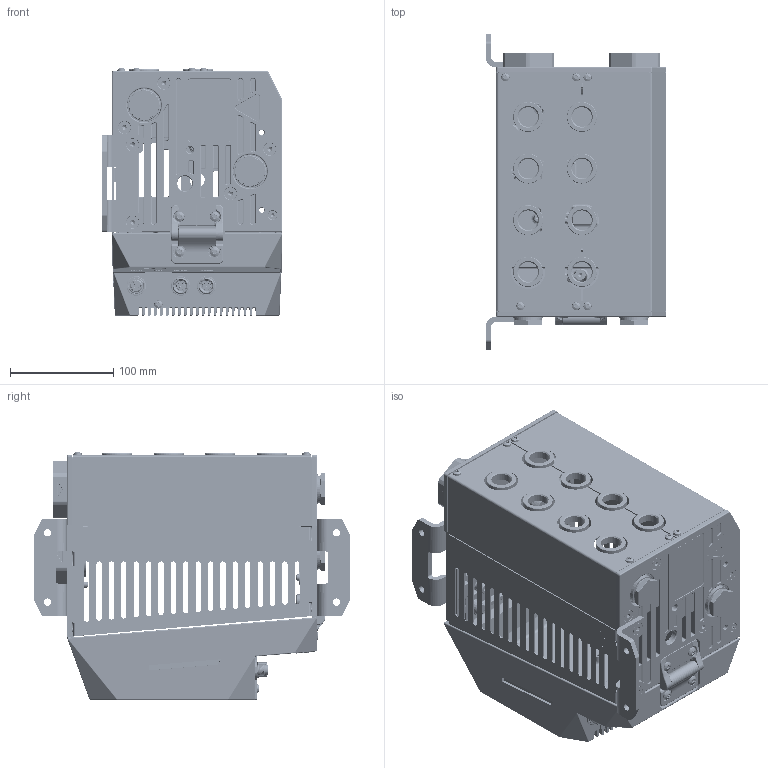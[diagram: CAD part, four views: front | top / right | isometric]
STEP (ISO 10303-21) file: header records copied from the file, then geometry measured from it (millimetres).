
FILE_DESCRIPTION (( 'STEP AP214' ), '1' );
FILE_NAME ('HB-FX1XXR61-4.STEP', '2026-03-02T08:56:28', ( '' ), ( '' ), 'SwSTEP 2.0', 'SolidWorks 2023', '' );
FILE_SCHEMA (( 'AUTOMOTIVE_DESIGN' ));
Length unit declared in the file: millimetre
Products named in the file (22): Kopie von K8534-Hülle Teil2^K8534-Hülle kompl_4-Fach HB-Therm; Kopie von 29824-X^Kopie von K8534-Hülle Teil3_K8534-Hülle kompl_00; Kopie von 28706^Kopie von K8534-Hülle Teil2_K8534-Hülle kompl_180°; HB-FX1XXR61-4; Kopie von 29827^Kopie von K8534-Hülle Teil2_K8534-Hülle kompl; Kopie von 29734-X^Kopie von K8534-Hülle Teil3_K8534-Hülle kompl_00; KX508-2_3^Kopie von 28706_Kopie von K8534-Hülle Teil2_K8534-Hülle kompl; Kopie von Kopie von 29730^Kopie von K8534-Hülle Teil2_K8534-Hülle kompl_00; Kopie von 29733-X^Kopie von K8534-Hülle Teil2_K8534-Hülle kompl; Kopie von 28862^Kopie von K8534-Hülle Teil2_K8534-Hülle kompl_M5x12; Kopie von 29796-X^Kopie von K8534-Hülle Teil2_K8534-Hülle kompl_29796-1; Kopie von 29730^Kopie von K8534-Hülle Teil3_K8534-Hülle kompl_00; Kopie von K8534-Hülle Teil3^K8534-Hülle kompl_4-FACH-RECHTS HB-Therm; Kopie von 29819-X^Kopie von K8534-Hülle Teil3_K8534-Hülle kompl_01-mit Beschriftung; KX508-2_1^Kopie von 28706_Kopie von K8534-Hülle Teil2_K8534-Hülle kompl; Kopie von 29813-X^Kopie von K8534-Hülle Teil3_K8534-Hülle kompl_01-mit Beschriftung; KX508-2_2^Kopie von 28706_Kopie von K8534-Hülle Teil2_K8534-Hülle kompl; Kopie von Kopie von 24568^Kopie von K8534-Hülle Teil3_K8534-Hülle kompl_00; Kopie von K8534-Hülle RECHTS^Kopie von K8534-Hülle Teil3_K8534-Hülle kompl_4-FACH RECHTS; Kopie von B3061620^Kopie von K8534-Hülle Teil2_K8534-Hülle kompl_M4x12; Kopie (2) von B3061620^Kopie von K8534-Hülle Teil2_K8534-Hülle kompl_M4x12; Kopie von 29714^Kopie von K8534-Hülle Teil2_K8534-Hülle kompl
Assembly tree (32 placements, depth 4):
  HB-FX1XXR61-4
    Kopie von K8534-Hülle Teil3^K8534-Hülle kompl_4-FACH-RECHTS HB-Therm
      Kopie von 29734-X^Kopie von K8534-Hülle Teil3_K8534-Hülle kompl_00  x2
      Kopie von 29730^Kopie von K8534-Hülle Teil3_K8534-Hülle kompl_00  x4
      Kopie von K8534-Hülle RECHTS^Kopie von K8534-Hülle Teil3_K8534-Hülle kompl_4-FACH RECHTS
      Kopie von 29819-X^Kopie von K8534-Hülle Teil3_K8534-Hülle kompl_01-mit Beschriftung
      Kopie von 29813-X^Kopie von K8534-Hülle Teil3_K8534-Hülle kompl_01-mit Beschriftung
      Kopie von 29824-X^Kopie von K8534-Hülle Teil3_K8534-Hülle kompl_00
      Kopie von Kopie von 24568^Kopie von K8534-Hülle Teil3_K8534-Hülle kompl_00  x2
    Kopie von K8534-Hülle Teil2^K8534-Hülle kompl_4-Fach HB-Therm
      Kopie von 29827^Kopie von K8534-Hülle Teil2_K8534-Hülle kompl  x2
      Kopie von 29714^Kopie von K8534-Hülle Teil2_K8534-Hülle kompl
      Kopie von 28862^Kopie von K8534-Hülle Teil2_K8534-Hülle kompl_M5x12  x4
      Kopie von 28706^Kopie von K8534-Hülle Teil2_K8534-Hülle kompl_180°
        KX508-2_1^Kopie von 28706_Kopie von K8534-Hülle Teil2_K8534-Hülle kompl
        KX508-2_2^Kopie von 28706_Kopie von K8534-Hülle Teil2_K8534-Hülle kompl
        KX508-2_3^Kopie von 28706_Kopie von K8534-Hülle Teil2_K8534-Hülle kompl
      Kopie von B3061620^Kopie von K8534-Hülle Teil2_K8534-Hülle kompl_M4x12  x2
      Kopie von 29796-X^Kopie von K8534-Hülle Teil2_K8534-Hülle kompl_29796-1
      Kopie von Kopie von 29730^Kopie von K8534-Hülle Teil2_K8534-Hülle kompl_00  x2
      Kopie von 29733-X^Kopie von K8534-Hülle Teil2_K8534-Hülle kompl
      Kopie (2) von B3061620^Kopie von K8534-Hülle Teil2_K8534-Hülle kompl_M4x12
Bounding box: 175 x 306 x 239.82 mm (x, y, z)
Volume: 1117453.1 mm3; surface area: 692532.8 mm2
Topology: 99 solids, 100 shells, 7354 faces, 17908 edges, 10860 vertices
Faces by surface type: plane 2421, cylinder 2201, bspline 1003, torus 741, cone 718, sphere 270
Full cylindrical faces by diameter (mm): 2.5 x9, 3.3 x22, 3.6 x1, 4 x16, 4.2 x5, 4.5 x6, 4.6 x1, 4.9 x6, 5 x36, 5.2 x4, 6 x14, 6.6 x12, 6.8 x2, 7 x18, 7.8 x2, 8.3 x1, 8.4 x4, 9.4 x1, 10 x1, 10.2 x1, 10.3 x1, 10.55 x1, 10.8 x2, 12 x26, 12.1 x10, 14.5 x3, 18.4 x2, 19 x11, 20.96 x2, 26.6 x2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
Entity records: 323585 total; most frequent: CARTESIAN_POINT 90686, ORIENTED_EDGE 32720, DIRECTION 31283, EDGE_CURVE 16360, AXIS2_PLACEMENT_3D 11968, VERTEX_POINT 10252, EDGE_LOOP 8192, FACE_OUTER_BOUND 7363
